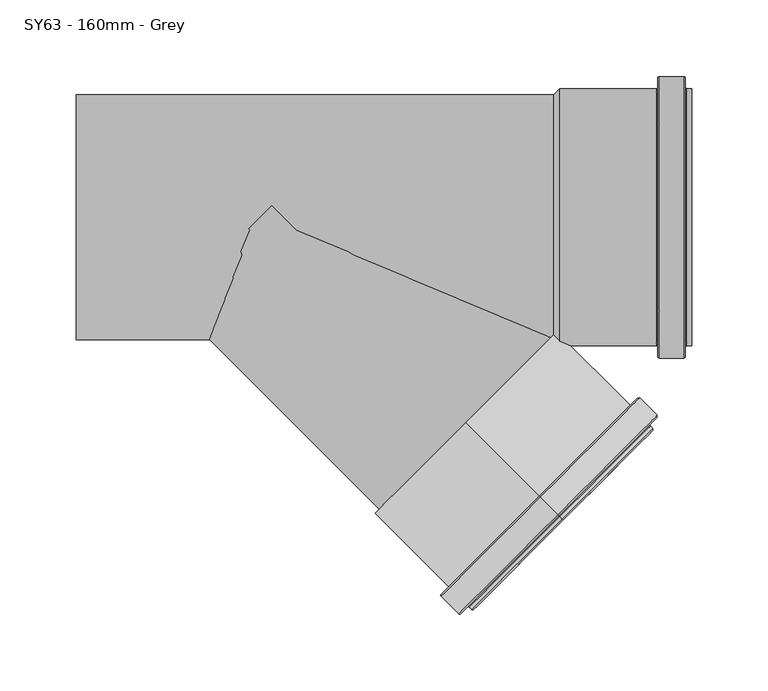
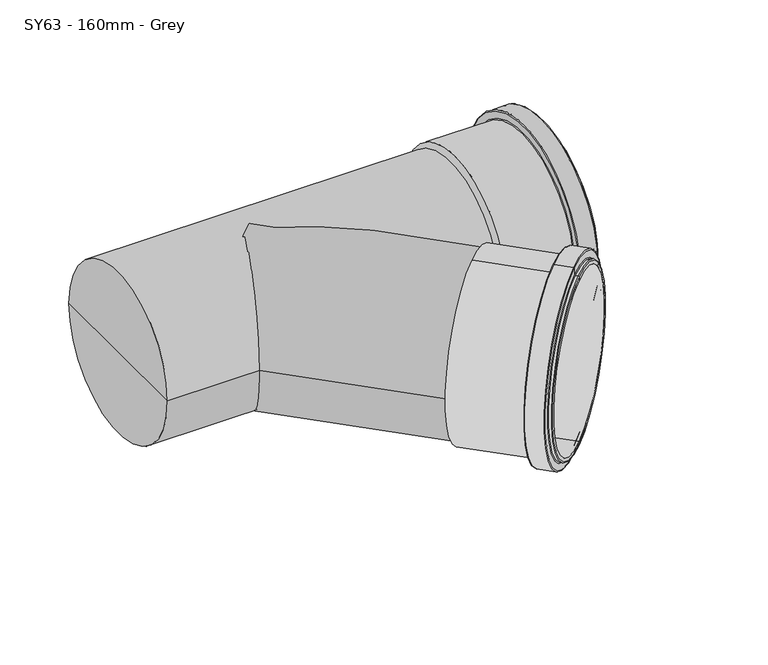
"""IFC4 building model written with IfcOpenShell, lengths in millimetres: pipe fitting geometry, MarleyPlumbingAndDrainage_PipeFitting_EqualBranch45PushFit : SY63 - 160mm - Grey."""

import ifcopenshell
import ifcopenshell.guid

model = None  # the IFC model being written
_history = None  # IfcOwnerHistory: only IFC2X3 demands one
_inside = {}  # id of a spatial element -> (the spatial element, [elements in it])
_under = {}  # id of a project, library or spatial element -> (it, [spatial elements below it])
_declared = {}  # id of a project -> (the project, [libraries it declares])
_typed = {}  # id of a type object -> (the type object, [elements of that type])
_made_of = {}  # id of a material, layer set ... -> (it, [elements and type objects made of it])


def new_model(schema):
    """Start an empty IFC model of exactly this schema.

    Asked for "IFC4X3", IfcOpenShell would pick the latest addendum, in which some entities
    have other attributes; the version numbers below select the first issue.
    IFC2X3 requires an IfcOwnerHistory on every rooted entity: one is made here for all.
    """
    global model, _history
    if schema == "IFC4X3":
        model = ifcopenshell.file(schema_version=(4, 3, 0, 0))
    else:
        model = ifcopenshell.file(schema=schema)
    _inside.clear()
    _under.clear()
    _declared.clear()
    _typed.clear()
    _made_of.clear()
    _history = None
    if model.schema == "IFC2X3":
        org = make("IfcOrganization", Name="unknown")
        user = make(
            "IfcPersonAndOrganization",
            ThePerson=make("IfcPerson", FamilyName="unknown"),
            TheOrganization=org,
        )
        app = make(
            "IfcApplication",
            ApplicationDeveloper=org,
            Version="unknown",
            ApplicationFullName="unknown",
            ApplicationIdentifier="unknown",
        )
        _history = make(
            "IfcOwnerHistory",
            OwningUser=user,
            OwningApplication=app,
            ChangeAction="ADDED",
            CreationDate=0,
        )
    return model


def make(cls, **values):
    """One entity of the class cls with the attributes given. An attribute that is None is left unset."""
    return model.create_entity(
        cls, **{name: value for name, value in values.items() if value is not None}
    )


def rooted(cls, **values):
    """An entity with a GlobalId (a new one), such as an element, a storey or a relation."""
    return make(cls, GlobalId=ifcopenshell.guid.new(), OwnerHistory=_history, **values)


def si_unit(unit_type, name, prefix=None):
    """IfcSIUnit, for example si_unit("LENGTHUNIT", "METRE", prefix="MILLI")."""
    return make("IfcSIUnit", UnitType=unit_type, Prefix=prefix, Name=name)


def assignment(units):
    """IfcUnitAssignment: the units of a project."""
    return None if units is None else make("IfcUnitAssignment", Units=units)


def point(xyz):
    """IfcCartesianPoint."""
    return None if xyz is None else make("IfcCartesianPoint", Coordinates=xyz)


def direction(xyz):
    """IfcDirection."""
    return None if xyz is None else make("IfcDirection", DirectionRatios=xyz)


def frame(location, z_axis=None, x_axis=None):
    """IfcAxis2Placement3D, a coordinate frame: its origin and axes. An axis left out is left unset."""
    return make(
        "IfcAxis2Placement3D",
        Location=point(location),
        Axis=direction(z_axis),
        RefDirection=direction(x_axis),
    )


def frame_2d(location, x_axis=None):
    """IfcAxis2Placement2D, a coordinate frame in the plane: its origin and x axis."""
    return make(
        "IfcAxis2Placement2D", Location=point(location), RefDirection=direction(x_axis)
    )


def origin():
    """The frame at (0, 0, 0) with its axes left unset."""
    return frame((0.0, 0.0, 0.0))


def origin_2d():
    """The frame at (0, 0) in the plane with its x axis left unset."""
    return frame_2d((0.0, 0.0))


def place(relative_to, where):
    """IfcLocalPlacement: puts the frame where relative to a parent placement (None: the world)."""
    return make(
        "IfcLocalPlacement", PlacementRelTo=relative_to, RelativePlacement=where
    )


def context(
    kind, dimensions, precision=None, world=None, true_north=None, identifier=None
):
    """IfcGeometricRepresentationContext, for example the 3D "Model" context."""
    return make(
        "IfcGeometricRepresentationContext",
        ContextIdentifier=identifier,
        ContextType=kind,
        CoordinateSpaceDimension=dimensions,
        Precision=precision,
        WorldCoordinateSystem=world,
        TrueNorth=true_north,
    )


def project(units=None, contexts=None):
    """IfcProject with its units and contexts."""
    return rooted(
        "IfcProject",
        Name="project",
        RepresentationContexts=contexts,
        UnitsInContext=assignment(units),
    )


def spatial(cls, under=None, at=None, **own):
    """A site, building, storey or space (cls), placed at a placement, below another one or the project."""
    s = rooted(cls, ObjectPlacement=at, **own)
    if under is not None:
        _under.setdefault(under.id(), (under, []))[1].append(s)
    return s


def polyline(points):
    """IfcPolyline through the points."""
    return make("IfcPolyline", Points=[point(p) for p in points])


def circle_curve(where, radius):
    """IfcCircle in the frame where."""
    return make("IfcCircle", Position=where, Radius=radius)


def ellipse_curve(where, semi_axis1, semi_axis2):
    """IfcEllipse in the frame where."""
    return make(
        "IfcEllipse", Position=where, SemiAxis1=semi_axis1, SemiAxis2=semi_axis2
    )


def trimmed(basis, trim1, trim2, sense, master):
    """IfcTrimmedCurve: the piece of a basis curve between two trims."""
    return make(
        "IfcTrimmedCurve",
        BasisCurve=basis,
        Trim1=trim1,
        Trim2=trim2,
        SenseAgreement=sense,
        MasterRepresentation=master,
    )


def segment(curve, same_sense, transition):
    """IfcCompositeCurveSegment."""
    return make(
        "IfcCompositeCurveSegment",
        Transition=transition,
        SameSense=same_sense,
        ParentCurve=curve,
    )


def composite_curve(segments, self_intersect=None):
    """IfcCompositeCurve: segments joined end to end."""
    return make("IfcCompositeCurve", Segments=segments, SelfIntersect=self_intersect)


def outline(outer, holes=None, kind="AREA"):
    """IfcArbitraryClosedProfileDef: a profile drawn as a closed curve; with holes, ...WithVoids."""
    if holes is None:
        return make("IfcArbitraryClosedProfileDef", ProfileType=kind, OuterCurve=outer)
    return make(
        "IfcArbitraryProfileDefWithVoids",
        ProfileType=kind,
        OuterCurve=outer,
        InnerCurves=holes,
    )


def extrude(swept, where, along, depth):
    """IfcExtrudedAreaSolid: the profile swept, set in the frame where, extruded along a direction by depth."""
    return make(
        "IfcExtrudedAreaSolid",
        SweptArea=swept,
        Position=where,
        ExtrudedDirection=direction(along),
        Depth=depth,
    )


def shape(context_of_items, identifier, shape_type, items):
    """IfcShapeRepresentation: the items that make up one representation, for example the "Body"."""
    return make(
        "IfcShapeRepresentation",
        ContextOfItems=context_of_items,
        RepresentationIdentifier=identifier,
        RepresentationType=shape_type,
        Items=items,
    )


def source(mapping_origin, context_of_items, identifier, shape_type, items):
    """IfcRepresentationMap: a shape defined once, which mapped items show again and again."""
    return make(
        "IfcRepresentationMap",
        MappingOrigin=mapping_origin,
        MappedRepresentation=shape(context_of_items, identifier, shape_type, items),
    )


def transform(
    local_origin,
    x_axis=None,
    y_axis=None,
    z_axis=None,
    scale=None,
    scale2=None,
    scale3=None,
    uniform=True,
):
    """IfcCartesianTransformationOperator3D, or its non-uniform kind. x_axis, y_axis, z_axis: its Axis1, 2, 3."""
    if uniform:
        return make(
            "IfcCartesianTransformationOperator3D",
            Axis1=direction(x_axis),
            Axis2=direction(y_axis),
            LocalOrigin=point(local_origin),
            Scale=scale,
            Axis3=direction(z_axis),
        )
    return make(
        "IfcCartesianTransformationOperator3DnonUniform",
        Axis1=direction(x_axis),
        Axis2=direction(y_axis),
        LocalOrigin=point(local_origin),
        Scale=scale,
        Axis3=direction(z_axis),
        Scale2=scale2,
        Scale3=scale3,
    )


def mapped(mapping_source, mapping_target):
    """IfcMappedItem: shows the shape of a source again, moved by a transform."""
    return make(
        "IfcMappedItem", MappingSource=mapping_source, MappingTarget=mapping_target
    )


def made_of(thing, what):
    """Note that an element or type object is made of a material, layer set ...; save() writes the relation."""
    if what is not None:
        _made_of.setdefault(what.id(), (what, []))[1].append(thing)
    return thing


def element(
    cls,
    number,
    at=None,
    inside=None,
    cuts=None,
    type_object=None,
    material=None,
    context=None,
    identifier="Body",
    shape_type=None,
    held_by="IfcProductDefinitionShape",
    body=None,
    shapes=None,
    **own,
):
    """One element of the class cls, such as IfcWall. Its Tag is "e" and its number.

    at: its placement. inside: the storey or other place that contains it. cuts: it is an
    opening in that element (IfcRelVoidsElement). A single representation is given by context,
    identifier, shape_type and body (its items); several are given by shapes. held_by: the class
    of the entity that holds the representations. save() writes the other relations.
    """
    e = rooted(cls, Tag="e%d" % number, ObjectPlacement=at, **own)
    if body is not None:
        shapes = [shape(context, identifier, shape_type, body)]
    if shapes is not None:
        e.Representation = make(held_by, Representations=shapes)
    if inside is not None:
        _inside.setdefault(inside.id(), (inside, []))[1].append(e)
    if cuts is not None:
        rooted(
            "IfcRelVoidsElement", RelatingBuildingElement=cuts, RelatedOpeningElement=e
        )
    if type_object is not None:
        _typed.setdefault(type_object.id(), (type_object, []))[1].append(e)
    return made_of(e, material)


def aggregate(whole, parts):
    """IfcRelAggregates: a whole, such as a stair, and the parts it consists of."""
    return rooted("IfcRelAggregates", RelatingObject=whole, RelatedObjects=parts)


def save(model, path):
    """Write the relations noted so far, then the file.

    IfcRelAggregates (storeys below a building ...), IfcRelContainedInSpatialStructure (elements
    in a storey), IfcRelDefinesByType, IfcRelAssociatesMaterial and IfcRelDeclares: one each for
    every whole, place, type object, material and project.
    """
    for whole, parts in _under.values():
        aggregate(whole, parts)
    for where, things in _inside.values():
        rooted(
            "IfcRelContainedInSpatialStructure",
            RelatedElements=things,
            RelatingStructure=where,
        )
    for kind, things in _typed.values():
        rooted("IfcRelDefinesByType", RelatedObjects=things, RelatingType=kind)
    for what, things in _made_of.values():
        rooted("IfcRelAssociatesMaterial", RelatedObjects=things, RelatingMaterial=what)
    for by, libraries in _declared.values():
        rooted("IfcRelDeclares", RelatingContext=by, RelatedDefinitions=libraries)
    model.write(path)


def plane_surface(at):
    """IfcPlane: the flat surface through the origin of the frame at, square to its z axis."""
    return make("IfcPlane", Position=at)


def cylinder_surface(at, radius):
    """IfcCylindricalSurface: all points at the distance radius from the z axis of the frame at."""
    return make("IfcCylindricalSurface", Position=at, Radius=radius)


def revolved_surface(curve, axis_point, axis_direction):
    """IfcSurfaceOfRevolution: the curve turned about the line through axis_point along axis_direction."""
    return make(
        "IfcSurfaceOfRevolution",
        SweptCurve=make("IfcArbitraryOpenProfileDef", ProfileType="CURVE", Curve=curve),
        AxisPosition=make("IfcAxis1Placement", Location=point(axis_point), Axis=direction(axis_direction)),
    )


def advanced_brep(points, edges, surfaces, faces):
    """IfcAdvancedBrep: a solid bounded by faces that lie on surfaces and meet in shared edges.

    An edge is (start, end): straight between two places in points (the first is 0);
    or (start, end, curve); or (start, end, curve, False) where it runs against its curve.
    A face is (place in surfaces, loops), or (place, loops, False) where it looks against
    its surface's normal. A loop lists edges by number (the first is 1), with a minus sign
    where the edge is run from its end to its start. The first loop is the outer one.
    """
    corners = [point(p) for p in points]
    vertices = [make("IfcVertexPoint", VertexGeometry=c) for c in corners]
    made = []
    for start, end, *more in edges:
        made.append(
            make(
                "IfcEdgeCurve",
                EdgeStart=vertices[start],
                EdgeEnd=vertices[end],
                EdgeGeometry=more[0] if more else make("IfcPolyline", Points=[corners[start], corners[end]]),
                SameSense=more[1] if len(more) > 1 else True,
            )
        )
    hull = []
    for where, loops, *sense in faces:
        bounds = []
        for j, loop in enumerate(loops):
            ring = [make("IfcOrientedEdge", EdgeElement=made[abs(k) - 1], Orientation=k > 0) for k in loop]
            bounds.append(
                make(
                    "IfcFaceOuterBound" if j == 0 else "IfcFaceBound",
                    Bound=make("IfcEdgeLoop", EdgeList=ring),
                    Orientation=True,
                )
            )
        hull.append(make("IfcAdvancedFace", Bounds=bounds, FaceSurface=surfaces[where], SameSense=sense[0] if sense else True))
    return make("IfcAdvancedBrep", Outer=make("IfcClosedShell", CfsFaces=hull))


def sy63_160mm_grey_e8ac3b36(model_context):
    return source(origin(), model_context, "Body", "SolidModel", [
        advanced_brep(
        [(119.5249066, -134.3502884, -84.0), (119.5249066, -134.3502884, 84.0), (119.5249066, -134.3502884, 80.0), (119.5249066, -134.3502884, -80.0), (167.6081677, -182.4335495, -84.0), (167.6081677, -182.4335495, 84.0), (167.6081677, -182.4335495, -91.0), (167.6081677, -182.4335495, 91.0), (179.628983, -194.4543648, -92.0), (179.628983, -194.4543648, 92.0), (168.3152745, -183.1406563, 92.0), (168.3152745, -183.1406563, -92.0), (180.3360898, -195.1614716, -85.0), (180.3360898, -195.1614716, 85.0), (180.3360898, -195.1614716, 91.0), (180.3360898, -195.1614716, -91.0), (182.4574101, -197.282792, -84.0), (182.4574101, -197.282792, 84.0), (181.0431966, -195.8685784, 84.0), (181.0431966, -195.8685784, -84.0), (183.1645169, -197.9898987, -80.0), (183.1645169, -197.9898987, 80.0), (183.1645169, -197.9898987, 83.0), (183.1645169, -197.9898987, -83.0)],
        [
            (0, 1, circle_curve(frame((119.5249066, -134.3502884, 0.0), z_axis=(-0.7071067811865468, 0.7071067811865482, 0.0), x_axis=(0.0, 0.0, 1.0000000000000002)), 84.0)),
            (1, 2),
            (2, 3, circle_curve(frame((119.5249066, -134.3502884, 0.0), z_axis=(0.7071067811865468, -0.7071067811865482, 0.0), x_axis=(0.0, 0.0, 1.0000000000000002)), 80.0)),
            (3, 0),
            (1, 0, circle_curve(frame((119.5249066, -134.3502884, 0.0), z_axis=(-0.7071067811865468, 0.7071067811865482, 0.0), x_axis=(0.0, 0.0, 1.0000000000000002)), 84.0)),
            (3, 2, circle_curve(frame((119.5249066, -134.3502884, 0.0), z_axis=(0.7071067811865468, -0.7071067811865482, 0.0), x_axis=(0.0, 0.0, 1.0000000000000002)), 80.0)),
            (4, 5, circle_curve(frame((167.6081677, -182.4335495, 0.0), z_axis=(-0.7071067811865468, 0.7071067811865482, 0.0), x_axis=(0.0, 0.0, 1.0000000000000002)), 84.0)),
            (5, 1),
            (0, 4),
            (5, 4, circle_curve(frame((167.6081677, -182.4335495, 0.0), z_axis=(-0.7071067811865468, 0.7071067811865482, 0.0), x_axis=(0.0, 0.0, 1.0000000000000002)), 84.0)),
            (6, 7, circle_curve(frame((167.6081677, -182.4335495, 0.0), z_axis=(-0.7071067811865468, 0.7071067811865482, 0.0), x_axis=(0.0, 0.0, 1.0000000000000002)), 91.0)),
            (7, 5),
            (4, 6),
            (7, 6, circle_curve(frame((167.6081677, -182.4335495, 0.0), z_axis=(-0.7071067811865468, 0.7071067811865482, 0.0), x_axis=(0.0, 0.0, 1.0000000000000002)), 91.0)),
            (8, 9, circle_curve(frame((179.628983, -194.4543648, 0.0), z_axis=(-0.7071067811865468, 0.7071067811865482, 0.0), x_axis=(0.0, 0.0, 1.0000000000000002)), 92.0)),
            (9, 10),
            (10, 11, circle_curve(frame((168.3152745, -183.1406563, 0.0), z_axis=(0.7071067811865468, -0.7071067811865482, 0.0), x_axis=(0.0, 0.0, 1.0000000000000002)), 92.0)),
            (11, 8),
            (9, 8, circle_curve(frame((179.628983, -194.4543648, 0.0), z_axis=(-0.7071067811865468, 0.7071067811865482, 0.0), x_axis=(0.0, 0.0, 1.0000000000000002)), 92.0)),
            (11, 10, circle_curve(frame((168.3152745, -183.1406563, 0.0), z_axis=(0.7071067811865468, -0.7071067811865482, 0.0), x_axis=(0.0, 0.0, 1.0000000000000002)), 92.0)),
            (12, 13, circle_curve(frame((180.3360898, -195.1614716, 0.0), z_axis=(-0.7071067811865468, 0.7071067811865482, 0.0), x_axis=(0.0, 0.0, 1.0000000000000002)), 85.0)),
            (13, 14),
            (14, 15, circle_curve(frame((180.3360898, -195.1614716, 0.0), z_axis=(0.7071067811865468, -0.7071067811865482, 0.0), x_axis=(0.0, 0.0, 1.0000000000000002)), 91.0)),
            (15, 12),
            (13, 12, circle_curve(frame((180.3360898, -195.1614716, 0.0), z_axis=(-0.7071067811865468, 0.7071067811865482, 0.0), x_axis=(0.0, 0.0, 1.0000000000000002)), 85.0)),
            (15, 14, circle_curve(frame((180.3360898, -195.1614716, 0.0), z_axis=(0.7071067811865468, -0.7071067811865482, 0.0), x_axis=(0.0, 0.0, 1.0000000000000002)), 91.0)),
            (16, 17, circle_curve(frame((182.4574101, -197.282792, 0.0), z_axis=(-0.7071067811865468, 0.7071067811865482, 0.0), x_axis=(0.0, 0.0, 1.0000000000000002)), 84.0)),
            (17, 18),
            (18, 19, circle_curve(frame((181.0431966, -195.8685784, 0.0), z_axis=(0.7071067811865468, -0.7071067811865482, 0.0), x_axis=(0.0, 0.0, 1.0000000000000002)), 84.0)),
            (19, 16),
            (17, 16, circle_curve(frame((182.4574101, -197.282792, 0.0), z_axis=(-0.7071067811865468, 0.7071067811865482, 0.0), x_axis=(0.0, 0.0, 1.0000000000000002)), 84.0)),
            (19, 18, circle_curve(frame((181.0431966, -195.8685784, 0.0), z_axis=(0.7071067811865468, -0.7071067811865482, 0.0), x_axis=(0.0, 0.0, 1.0000000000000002)), 84.0)),
            (20, 21, circle_curve(frame((183.1645169, -197.9898987, 0.0), z_axis=(-0.7071067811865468, 0.7071067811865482, 0.0), x_axis=(0.0, 0.0, 1.0000000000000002)), 80.0)),
            (21, 22),
            (22, 23, circle_curve(frame((183.1645169, -197.9898987, 0.0), z_axis=(0.7071067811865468, -0.7071067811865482, 0.0), x_axis=(0.0, 0.0, 1.0000000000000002)), 83.0)),
            (23, 20),
            (21, 20, circle_curve(frame((183.1645169, -197.9898987, 0.0), z_axis=(-0.7071067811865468, 0.7071067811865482, 0.0), x_axis=(0.0, 0.0, 1.0000000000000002)), 80.0)),
            (23, 22, circle_curve(frame((183.1645169, -197.9898987, 0.0), z_axis=(0.7071067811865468, -0.7071067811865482, 0.0), x_axis=(0.0, 0.0, 1.0000000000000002)), 83.0)),
            (2, 21),
            (20, 3),
            (10, 7, circle_curve(frame((168.3152745, -183.1406563, 91.0), z_axis=(-0.7071067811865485, -0.707106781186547, 0.0), x_axis=(0.49999999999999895, -0.49999999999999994, 0.7071067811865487)), 1.0)),
            (6, 11, circle_curve(frame((168.3152745, -183.1406563, -91.0), z_axis=(-0.7071067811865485, -0.707106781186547, 0.0), x_axis=(0.5000000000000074, -0.5000000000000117, -0.7071067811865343)), 1.0)),
            (14, 9, circle_curve(frame((179.628983, -194.4543648, 91.0), z_axis=(-0.7071067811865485, -0.707106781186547, 0.0), x_axis=(0.49999999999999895, -0.49999999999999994, 0.7071067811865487)), 1.0)),
            (8, 15, circle_curve(frame((179.628983, -194.4543648, -91.0), z_axis=(-0.7071067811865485, -0.707106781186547, 0.0), x_axis=(0.5000000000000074, -0.5000000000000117, -0.7071067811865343)), 1.0)),
            (18, 13, circle_curve(frame((181.0431966, -195.8685784, 85.0), z_axis=(0.7071067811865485, 0.707106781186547, 0.0), x_axis=(0.49999999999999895, -0.49999999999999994, 0.7071067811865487)), 1.0)),
            (12, 19, circle_curve(frame((181.0431966, -195.8685784, -85.0), z_axis=(0.7071067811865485, 0.707106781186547, 0.0), x_axis=(0.5000000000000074, -0.5000000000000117, -0.7071067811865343)), 1.0)),
            (22, 17, circle_curve(frame((182.4574101, -197.282792, 83.0), z_axis=(-0.7071067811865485, -0.707106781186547, 0.0), x_axis=(0.49999999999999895, -0.49999999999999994, 0.7071067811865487)), 1.0)),
            (16, 23, circle_curve(frame((182.4574101, -197.282792, -83.0), z_axis=(-0.7071067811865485, -0.707106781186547, 0.0), x_axis=(0.5000000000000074, -0.5000000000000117, -0.7071067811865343)), 1.0)),
        ],
        [
            plane_surface(frame((119.5249066, -134.3502884, 0.0), z_axis=(-0.7071067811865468, 0.7071067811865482, 0.0), x_axis=(0.0, 0.0, 1.0))),
            cylinder_surface(frame((235.4904187, -250.3158005, 0.0), z_axis=(0.7071067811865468, -0.7071067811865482, 0.0), x_axis=(0.0, 0.0, 1.0000000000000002)), 84.0),
            plane_surface(frame((167.6081677, -182.4335495, 0.0), z_axis=(-0.7071067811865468, 0.7071067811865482, 0.0), x_axis=(0.0, 0.0, 1.0))),
            cylinder_surface(frame((235.4904187, -250.3158005, 0.0), z_axis=(0.7071067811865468, -0.7071067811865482, 0.0), x_axis=(0.0, 0.0, 1.0000000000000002)), 92.0),
            plane_surface(frame((180.3360898, -195.1614716, 0.0), z_axis=(0.7071067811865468, -0.7071067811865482, 0.0), x_axis=(0.0, 0.0, 1.0))),
            plane_surface(frame((183.1645169, -197.9898987, 0.0), z_axis=(0.7071067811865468, -0.7071067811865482, 0.0), x_axis=(0.0, 0.0, 1.0))),
            revolved_surface(polyline([(183.16451690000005, -197.98989869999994, 80.00000000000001), (119.52490660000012, -134.3502883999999, 80.00000000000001)]), (235.4904187, -250.3158005, 0.0), (0.7071067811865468, -0.7071067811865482, 0.0)),
            revolved_surface(trimmed(ellipse_curve(frame((168.3152745, -183.1406563, 91.0), z_axis=(0.7071067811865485, 0.707106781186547, 0.0), x_axis=(0.49999999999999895, -0.49999999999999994, 0.7071067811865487)), 1.0, 1.0), [point((167.6081677, -182.4335495, 91.0))], [point((168.3152745, -183.1406563, 92.0))], True, "CARTESIAN"), (235.4904187, -250.3158005, 0.0), (0.7071067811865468, -0.7071067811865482, 0.0)),
            revolved_surface(trimmed(ellipse_curve(frame((168.3152745, -183.1406563, 91.0), z_axis=(0.7071067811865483, 0.7071067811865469, 0.0), x_axis=(0.49999999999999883, -0.49999999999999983, 0.7071067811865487)), 1.0, 1.0), [point((167.6081677, -182.4335495, 91.0))], [point((168.3152745, -183.1406563, 92.0))], True, "CARTESIAN"), (235.4904187, -250.3158005, 0.0), (0.7071067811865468, -0.7071067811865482, 0.0)),
            revolved_surface(trimmed(ellipse_curve(frame((179.628983, -194.4543648, 91.0), z_axis=(0.7071067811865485, 0.707106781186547, 0.0), x_axis=(0.49999999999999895, -0.49999999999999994, 0.7071067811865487)), 1.0, 1.0), [point((179.628983, -194.4543648, 92.0))], [point((180.3360898, -195.1614716, 91.0))], True, "CARTESIAN"), (235.4904187, -250.3158005, 0.0), (0.7071067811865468, -0.7071067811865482, 0.0)),
            revolved_surface(trimmed(ellipse_curve(frame((179.628983, -194.4543648, 91.0), z_axis=(0.7071067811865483, 0.7071067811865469, 0.0), x_axis=(0.49999999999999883, -0.49999999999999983, 0.7071067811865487)), 1.0, 1.0), [point((179.628983, -194.4543648, 92.0))], [point((180.3360898, -195.1614716, 91.0))], True, "CARTESIAN"), (235.4904187, -250.3158005, 0.0), (0.7071067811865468, -0.7071067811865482, 0.0)),
            revolved_surface(trimmed(ellipse_curve(frame((181.0431966, -195.8685784, 85.0), z_axis=(-0.7071067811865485, -0.707106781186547, 0.0), x_axis=(0.49999999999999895, -0.49999999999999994, 0.7071067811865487)), 1.0, 1.0), [point((180.3360898, -195.1614716, 85.0))], [point((181.0431966, -195.8685784, 84.0))], True, "CARTESIAN"), (235.4904187, -250.3158005, 0.0), (0.7071067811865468, -0.7071067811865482, 0.0)),
            revolved_surface(trimmed(ellipse_curve(frame((181.0431966, -195.8685784, 85.0), z_axis=(-0.7071067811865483, -0.7071067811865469, 0.0), x_axis=(0.49999999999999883, -0.49999999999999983, 0.7071067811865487)), 1.0, 1.0), [point((180.3360898, -195.1614716, 85.0))], [point((181.0431966, -195.8685784, 84.0))], True, "CARTESIAN"), (235.4904187, -250.3158005, 0.0), (0.7071067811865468, -0.7071067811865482, 0.0)),
            revolved_surface(trimmed(ellipse_curve(frame((182.4574101, -197.282792, 83.0), z_axis=(0.7071067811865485, 0.707106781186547, 0.0), x_axis=(0.49999999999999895, -0.49999999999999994, 0.7071067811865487)), 1.0, 1.0), [point((182.4574101, -197.282792, 84.0))], [point((183.1645169, -197.9898987, 83.0))], True, "CARTESIAN"), (235.4904187, -250.3158005, 0.0), (0.7071067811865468, -0.7071067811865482, 0.0)),
            revolved_surface(trimmed(ellipse_curve(frame((182.4574101, -197.282792, 83.0), z_axis=(0.7071067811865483, 0.7071067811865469, 0.0), x_axis=(0.49999999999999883, -0.49999999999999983, 0.7071067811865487)), 1.0, 1.0), [point((182.4574101, -197.282792, 84.0))], [point((183.1645169, -197.9898987, 83.0))], True, "CARTESIAN"), (235.4904187, -250.3158005, 0.0), (0.7071067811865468, -0.7071067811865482, 0.0)),
        ],
        [
            (0, [[1, 2, 3, 4]]),
            (0, [[5, -4, 6, -2]]),
            (1, [[7, 8, -1, 9]]),
            (1, [[10, -9, -5, -8]]),
            (2, [[11, 12, -7, 13]]),
            (2, [[14, -13, -10, -12]]),
            (3, [[15, 16, 17, 18]]),
            (3, [[19, -18, 20, -16]]),
            (4, [[21, 22, 23, 24]]),
            (4, [[25, -24, 26, -22]]),
            (1, [[27, 28, 29, 30]]),
            (1, [[31, -30, 32, -28]]),
            (5, [[33, 34, 35, 36]]),
            (5, [[37, -36, 38, -34]]),
            (6, [[-3, 39, -33, 40]]),
            (6, [[-6, -40, -37, -39]]),
            (7, [[-17, 41, -11, 42]]),
            (8, [[-20, -42, -14, -41]]),
            (9, [[-23, 43, -15, 44]]),
            (10, [[-26, -44, -19, -43]]),
            (11, [[-29, 45, -21, 46]]),
            (12, [[-32, -46, -25, -45]]),
            (13, [[-35, 47, -27, 48]]),
            (14, [[-38, -48, -31, -47]]),
        ],
    ),
        extrude(outline(composite_curve([segment(trimmed(circle_curve(origin_2d(), 80.0), [point((0.0, -80.0))], [point((0.0, 80.0))], False, "CARTESIAN"), True, "CONTINUOUS"), segment(trimmed(circle_curve(origin_2d(), 80.0), [point((0.0, 80.0))], [point((0.0, -80.0))], False, "CARTESIAN"), True, "CONTINUOUS")], self_intersect=False)), frame((119.5249066, -134.3502884, 0.0), z_axis=(-0.7071067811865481, 0.7071067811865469, 0.0), x_axis=(0.0, 0.0, 1.0)), (0.0, 0.0, 1.0), 190.0),
        advanced_brep(
        [(264.1746182, -84.0, 0.0), (264.1746182, 84.0, 0.0), (267.1746182, 84.0, 0.0), (267.1746182, -84.0, 0.0), (263.1746182, -91.0, 0.0), (263.1746182, 91.0, 0.0), (263.1746182, 85.0, 0.0), (263.1746182, -85.0, 0.0), (246.1746182, -92.0, 0.0), (246.1746182, 92.0, 0.0), (262.1746182, 92.0, 0.0), (262.1746182, -92.0, 0.0), (245.1746182, -85.0, 0.0), (245.1746182, 85.0, 0.0), (245.1746182, 91.0, 0.0), (245.1746182, -91.0, 0.0), (181.1746182, -84.0, 0.0), (181.1746182, 84.0, 0.0), (244.1746182, 84.0, 0.0), (244.1746182, -84.0, 0.0), (177.1746182, -80.0, 0.0), (177.1746182, 80.0, 0.0), (-134.8253818, -80.0, 0.0), (-134.8253818, 80.0, 0.0), (-134.8253818, 0.0, 0.0), (181.1746182, -80.0, 0.0), (181.1746182, 80.0, 0.0), (181.1746182, 0.0, 0.0), (267.1746182, -80.0, 0.0), (267.1746182, 80.0, 0.0)],
        [
            (0, 1, circle_curve(frame((264.1746182, 0.0, 0.0), z_axis=(1.0, 0.0, 0.0), x_axis=(0.0, 1.0, 0.0)), 84.0)),
            (1, 2),
            (2, 3, circle_curve(frame((267.1746182, 0.0, 0.0), z_axis=(-1.0, 0.0, 0.0), x_axis=(0.0, 1.0, 0.0)), 84.0)),
            (3, 0),
            (1, 0, circle_curve(frame((264.1746182, 0.0, 0.0), z_axis=(1.0, 0.0, 0.0), x_axis=(0.0, 1.0, 0.0)), 84.0)),
            (3, 2, circle_curve(frame((267.1746182, 0.0, 0.0), z_axis=(-1.0, 0.0, 0.0), x_axis=(0.0, 1.0, 0.0)), 84.0)),
            (4, 5, circle_curve(frame((263.1746182, 0.0, 0.0), z_axis=(1.0, 0.0, 0.0), x_axis=(0.0, 1.0, 0.0)), 91.0)),
            (5, 6),
            (6, 7, circle_curve(frame((263.1746182, 0.0, 0.0), z_axis=(-1.0, 0.0, 0.0), x_axis=(0.0, 1.0, 0.0)), 85.0)),
            (7, 4),
            (5, 4, circle_curve(frame((263.1746182, 0.0, 0.0), z_axis=(1.0, 0.0, 0.0), x_axis=(0.0, 1.0, 0.0)), 91.0)),
            (7, 6, circle_curve(frame((263.1746182, 0.0, 0.0), z_axis=(-1.0, 0.0, 0.0), x_axis=(0.0, 1.0, 0.0)), 85.0)),
            (8, 9, circle_curve(frame((246.1746182, 0.0, 0.0), z_axis=(1.0, 0.0, 0.0), x_axis=(0.0, 1.0, 0.0)), 92.0)),
            (9, 10),
            (10, 11, circle_curve(frame((262.1746182, 0.0, 0.0), z_axis=(-1.0, 0.0, 0.0), x_axis=(0.0, 1.0, 0.0)), 92.0)),
            (11, 8),
            (9, 8, circle_curve(frame((246.1746182, 0.0, 0.0), z_axis=(1.0, 0.0, 0.0), x_axis=(0.0, 1.0, 0.0)), 92.0)),
            (11, 10, circle_curve(frame((262.1746182, 0.0, 0.0), z_axis=(-1.0, 0.0, 0.0), x_axis=(0.0, 1.0, 0.0)), 92.0)),
            (12, 13, circle_curve(frame((245.1746182, 0.0, 0.0), z_axis=(1.0, 0.0, 0.0), x_axis=(0.0, 1.0, 0.0)), 85.0)),
            (13, 14),
            (14, 15, circle_curve(frame((245.1746182, 0.0, 0.0), z_axis=(-1.0, 0.0, 0.0), x_axis=(0.0, 1.0, 0.0)), 91.0)),
            (15, 12),
            (13, 12, circle_curve(frame((245.1746182, 0.0, 0.0), z_axis=(1.0, 0.0, 0.0), x_axis=(0.0, 1.0, 0.0)), 85.0)),
            (15, 14, circle_curve(frame((245.1746182, 0.0, 0.0), z_axis=(-1.0, 0.0, 0.0), x_axis=(0.0, 1.0, 0.0)), 91.0)),
            (16, 17, circle_curve(frame((181.1746182, 0.0, 0.0), z_axis=(1.0, 0.0, 0.0), x_axis=(0.0, 1.0, 0.0)), 84.0)),
            (17, 18),
            (18, 19, circle_curve(frame((244.1746182, 0.0, 0.0), z_axis=(-1.0, 0.0, 0.0), x_axis=(0.0, 1.0, 0.0)), 84.0)),
            (19, 16),
            (17, 16, circle_curve(frame((181.1746182, 0.0, 0.0), z_axis=(1.0, 0.0, 0.0), x_axis=(0.0, 1.0, 0.0)), 84.0)),
            (19, 18, circle_curve(frame((244.1746182, 0.0, 0.0), z_axis=(-1.0, 0.0, 0.0), x_axis=(0.0, 1.0, 0.0)), 84.0)),
            (20, 21, circle_curve(frame((177.1746182, 0.0, 0.0), z_axis=(1.0, 0.0, 0.0), x_axis=(0.0, 1.0, 0.0)), 80.0)),
            (21, 17),
            (16, 20),
            (21, 20, circle_curve(frame((177.1746182, 0.0, 0.0), z_axis=(1.0, 0.0, 0.0), x_axis=(0.0, 1.0, 0.0)), 80.0)),
            (22, 23, circle_curve(frame((-134.8253818, 0.0, 0.0), z_axis=(1.0, 0.0, 0.0), x_axis=(0.0, 1.0, 0.0)), 80.0)),
            (23, 21),
            (20, 22),
            (23, 22, circle_curve(frame((-134.8253818, 0.0, 0.0), z_axis=(1.0, 0.0, 0.0), x_axis=(0.0, 1.0, 0.0)), 80.0)),
            (24, 23),
            (22, 24),
            (25, 26, circle_curve(frame((181.1746182, 0.0, 0.0), z_axis=(1.0, 0.0, 0.0), x_axis=(0.0, 1.0, 0.0)), 80.0)),
            (26, 27),
            (27, 25),
            (26, 25, circle_curve(frame((181.1746182, 0.0, 0.0), z_axis=(1.0, 0.0, 0.0), x_axis=(0.0, 1.0, 0.0)), 80.0)),
            (28, 29, circle_curve(frame((267.1746182, 0.0, 0.0), z_axis=(1.0, 0.0, 0.0), x_axis=(0.0, 1.0, 0.0)), 80.0)),
            (29, 26),
            (25, 28),
            (29, 28, circle_curve(frame((267.1746182, 0.0, 0.0), z_axis=(1.0, 0.0, 0.0), x_axis=(0.0, 1.0, 0.0)), 80.0)),
            (2, 29),
            (28, 3),
            (6, 1, circle_curve(frame((264.1746182, 85.0, 0.0), z_axis=(0.0, 0.0, 1.0), x_axis=(1.0, 0.0, 0.0)), 1.0)),
            (0, 7, circle_curve(frame((264.1746182, -85.0, 0.0), z_axis=(0.0, 0.0, 1.0), x_axis=(1.0, 0.0, 0.0)), 1.0)),
            (10, 5, circle_curve(frame((262.1746182, 91.0, 0.0), z_axis=(0.0, 0.0, -1.0), x_axis=(1.0, 0.0, 0.0)), 1.0)),
            (4, 11, circle_curve(frame((262.1746182, -91.0, 0.0), z_axis=(0.0, 0.0, -1.0), x_axis=(1.0, 0.0, 0.0)), 1.0)),
            (14, 9, circle_curve(frame((246.1746182, 91.0, 0.0), z_axis=(0.0, 0.0, -1.0), x_axis=(1.0, 0.0, 0.0)), 1.0)),
            (8, 15, circle_curve(frame((246.1746182, -91.0, 0.0), z_axis=(0.0, 0.0, -1.0), x_axis=(1.0, 0.0, 0.0)), 1.0)),
            (18, 13, circle_curve(frame((244.1746182, 85.0, 0.0), z_axis=(0.0, 0.0, 1.0), x_axis=(1.0, 0.0, 0.0)), 1.0)),
            (12, 19, circle_curve(frame((244.1746182, -85.0, 0.0), z_axis=(0.0, 0.0, 1.0), x_axis=(1.0, 0.0, 0.0)), 1.0)),
        ],
        [
            cylinder_surface(frame((2081.0, 0.0, 0.0), z_axis=(-1.0, 0.0, 0.0), x_axis=(0.0, 1.0, 0.0)), 84.0),
            plane_surface(frame((263.1746182, 0.0, 0.0), z_axis=(1.0, 0.0, 0.0), x_axis=(0.0, 1.0, 0.0))),
            cylinder_surface(frame((2081.0, 0.0, 0.0), z_axis=(-1.0, 0.0, 0.0), x_axis=(0.0, 1.0, 0.0)), 92.0),
            plane_surface(frame((245.1746182, 0.0, 0.0), z_axis=(-1.0, 0.0, 0.0), x_axis=(0.0, 1.0, 0.0))),
            revolved_surface(polyline([(181.1746182, 84.0, 0.0), (177.1746182, 80.0, 0.0)]), (2081.0, 0.0, 0.0), (-1.0, 0.0, 0.0)),
            cylinder_surface(frame((2081.0, 0.0, 0.0), z_axis=(-1.0, 0.0, 0.0), x_axis=(0.0, 1.0, 0.0)), 80.0),
            plane_surface(frame((-134.8253818, 0.0, 0.0), z_axis=(-1.0, 0.0, 0.0), x_axis=(0.0, 1.0, 0.0))),
            plane_surface(frame((181.1746182, 0.0, 0.0), z_axis=(1.0, 0.0, 0.0), x_axis=(0.0, 1.0, 0.0))),
            revolved_surface(polyline([(181.17461819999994, 80.0, 0.0), (267.17461819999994, 80.0, 0.0)]), (2081.0, 0.0, 0.0), (-1.0, 0.0, 0.0)),
            plane_surface(frame((267.1746182, 0.0, 0.0), z_axis=(1.0, 0.0, 0.0), x_axis=(0.0, 1.0, 0.0))),
            revolved_surface(trimmed(ellipse_curve(frame((264.1746182, 85.0, 0.0), z_axis=(0.0, 0.0, -1.0), x_axis=(1.0, 0.0, 0.0)), 1.0, 1.0), [point((264.1746182, 84.0, 0.0))], [point((263.1746182, 85.0, 0.0))], True, "CARTESIAN"), (2081.0, 0.0, 0.0), (-1.0, 0.0, 0.0)),
            revolved_surface(trimmed(ellipse_curve(frame((262.1746182, 91.0, 0.0), z_axis=(0.0, 0.0, 1.0), x_axis=(1.0, 0.0, 0.0)), 1.0, 1.0), [point((263.1746182, 91.0, 0.0))], [point((262.1746182, 92.0, 0.0))], True, "CARTESIAN"), (2081.0, 0.0, 0.0), (-1.0, 0.0, 0.0)),
            revolved_surface(trimmed(ellipse_curve(frame((246.1746182, 91.0, 0.0), z_axis=(0.0, 0.0, 1.0), x_axis=(1.0, 0.0, 0.0)), 1.0, 1.0), [point((246.1746182, 92.0, 0.0))], [point((245.1746182, 91.0, 0.0))], True, "CARTESIAN"), (2081.0, 0.0, 0.0), (-1.0, 0.0, 0.0)),
            revolved_surface(trimmed(ellipse_curve(frame((244.1746182, 85.0, 0.0), z_axis=(0.0, 0.0, -1.0), x_axis=(1.0, 0.0, 0.0)), 1.0, 1.0), [point((245.1746182, 85.0, 0.0))], [point((244.1746182, 84.0, 0.0))], True, "CARTESIAN"), (2081.0, 0.0, 0.0), (-1.0, 0.0, 0.0)),
        ],
        [
            (0, [[1, 2, 3, 4]]),
            (0, [[5, -4, 6, -2]]),
            (1, [[7, 8, 9, 10]]),
            (1, [[11, -10, 12, -8]]),
            (2, [[13, 14, 15, 16]]),
            (2, [[17, -16, 18, -14]]),
            (3, [[19, 20, 21, 22]]),
            (3, [[23, -22, 24, -20]]),
            (0, [[25, 26, 27, 28]]),
            (0, [[29, -28, 30, -26]]),
            (4, [[31, 32, -25, 33]]),
            (4, [[34, -33, -29, -32]]),
            (5, [[35, 36, -31, 37]]),
            (5, [[38, -37, -34, -36]]),
            (6, [[39, -35, 40]]),
            (6, [[-40, -38, -39]]),
            (7, [[41, 42, 43]]),
            (7, [[44, -43, -42]]),
            (8, [[45, 46, -41, 47]]),
            (8, [[48, -47, -44, -46]]),
            (9, [[-3, 49, -45, 50]]),
            (9, [[-6, -50, -48, -49]]),
            (10, [[-9, 51, -1, 52]]),
            (10, [[-12, -52, -5, -51]]),
            (11, [[-15, 53, -7, 54]]),
            (11, [[-18, -54, -11, -53]]),
            (12, [[-21, 55, -13, 56]]),
            (12, [[-24, -56, -17, -55]]),
            (13, [[-27, 57, -19, 58]]),
            (13, [[-30, -58, -23, -57]]),
        ],
    ),
    ])


if __name__ == "__main__":
    model = new_model("IFC4")
    model_context = context("Model", 3, world=origin())
    ifc_project = project(units=[si_unit("LENGTHUNIT", "METRE", prefix="MILLI")], contexts=[model_context])
    site = spatial("IfcSite", under=ifc_project)
    building = spatial("IfcBuilding", under=site)
    placement = place(None, origin())
    sy63_160mm_grey_shape = sy63_160mm_grey_e8ac3b36(model_context)
    element("IfcPipeFitting", 1, ObjectType="MarleyPlumbingAndDrainage_PipeFitting_EqualBranch45PushFit : SY63 - 160mm - Grey", at=placement, inside=building, context=model_context, shape_type="MappedRepresentation", body=[
        mapped(sy63_160mm_grey_shape, transform((0.0, 0.0, 0.0), x_axis=(1.0, 0.0, 0.0), y_axis=(0.0, 1.0, 0.0), z_axis=(0.0, 0.0, 1.0))),
    ])
    save(model, "model.ifc")
